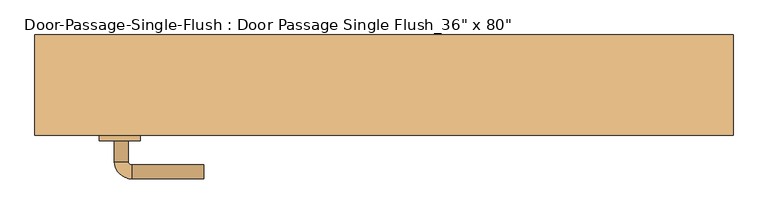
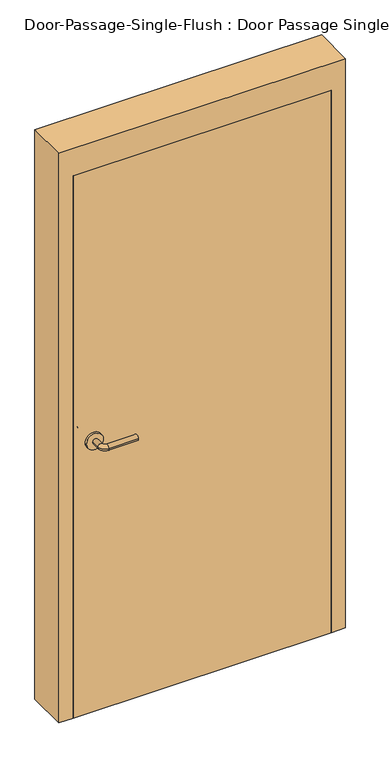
"""IFC4 building model written with IfcOpenShell, lengths in millimetres: door geometry."""

import ifcopenshell
import ifcopenshell.guid

model = None  # the IFC model being written
_history = None  # IfcOwnerHistory: only IFC2X3 demands one
_inside = {}  # id of a spatial element -> (the spatial element, [elements in it])
_under = {}  # id of a project, library or spatial element -> (it, [spatial elements below it])
_declared = {}  # id of a project -> (the project, [libraries it declares])
_typed = {}  # id of a type object -> (the type object, [elements of that type])
_made_of = {}  # id of a material, layer set ... -> (it, [elements and type objects made of it])


def new_model(schema):
    """Start an empty IFC model of exactly this schema.

    Asked for "IFC4X3", IfcOpenShell would pick the latest addendum, in which some entities
    have other attributes; the version numbers below select the first issue.
    IFC2X3 requires an IfcOwnerHistory on every rooted entity: one is made here for all.
    """
    global model, _history
    if schema == "IFC4X3":
        model = ifcopenshell.file(schema_version=(4, 3, 0, 0))
    else:
        model = ifcopenshell.file(schema=schema)
    _inside.clear()
    _under.clear()
    _declared.clear()
    _typed.clear()
    _made_of.clear()
    _history = None
    if model.schema == "IFC2X3":
        org = make("IfcOrganization", Name="unknown")
        user = make(
            "IfcPersonAndOrganization",
            ThePerson=make("IfcPerson", FamilyName="unknown"),
            TheOrganization=org,
        )
        app = make(
            "IfcApplication",
            ApplicationDeveloper=org,
            Version="unknown",
            ApplicationFullName="unknown",
            ApplicationIdentifier="unknown",
        )
        _history = make(
            "IfcOwnerHistory",
            OwningUser=user,
            OwningApplication=app,
            ChangeAction="ADDED",
            CreationDate=0,
        )
    return model


def make(cls, **values):
    """One entity of the class cls with the attributes given. An attribute that is None is left unset."""
    return model.create_entity(
        cls, **{name: value for name, value in values.items() if value is not None}
    )


def rooted(cls, **values):
    """An entity with a GlobalId (a new one), such as an element, a storey or a relation."""
    return make(cls, GlobalId=ifcopenshell.guid.new(), OwnerHistory=_history, **values)


def si_unit(unit_type, name, prefix=None):
    """IfcSIUnit, for example si_unit("LENGTHUNIT", "METRE", prefix="MILLI")."""
    return make("IfcSIUnit", UnitType=unit_type, Prefix=prefix, Name=name)


def assignment(units):
    """IfcUnitAssignment: the units of a project."""
    return None if units is None else make("IfcUnitAssignment", Units=units)


def point(xyz):
    """IfcCartesianPoint."""
    return None if xyz is None else make("IfcCartesianPoint", Coordinates=xyz)


def direction(xyz):
    """IfcDirection."""
    return None if xyz is None else make("IfcDirection", DirectionRatios=xyz)


def frame(location, z_axis=None, x_axis=None):
    """IfcAxis2Placement3D, a coordinate frame: its origin and axes. An axis left out is left unset."""
    return make(
        "IfcAxis2Placement3D",
        Location=point(location),
        Axis=direction(z_axis),
        RefDirection=direction(x_axis),
    )


def frame_2d(location, x_axis=None):
    """IfcAxis2Placement2D, a coordinate frame in the plane: its origin and x axis."""
    return make(
        "IfcAxis2Placement2D", Location=point(location), RefDirection=direction(x_axis)
    )


def origin():
    """The frame at (0, 0, 0) with its axes left unset."""
    return frame((0.0, 0.0, 0.0))


def origin_with_axes():
    """The frame at (0, 0, 0) with the z axis (0, 0, 1) and the x axis (1, 0, 0) written out."""
    return frame((0.0, 0.0, 0.0), z_axis=(0.0, 0.0, 1.0), x_axis=(1.0, 0.0, 0.0))


def place(relative_to, where):
    """IfcLocalPlacement: puts the frame where relative to a parent placement (None: the world)."""
    return make(
        "IfcLocalPlacement", PlacementRelTo=relative_to, RelativePlacement=where
    )


def context(
    kind, dimensions, precision=None, world=None, true_north=None, identifier=None
):
    """IfcGeometricRepresentationContext, for example the 3D "Model" context."""
    return make(
        "IfcGeometricRepresentationContext",
        ContextIdentifier=identifier,
        ContextType=kind,
        CoordinateSpaceDimension=dimensions,
        Precision=precision,
        WorldCoordinateSystem=world,
        TrueNorth=true_north,
    )


def project(units=None, contexts=None):
    """IfcProject with its units and contexts."""
    return rooted(
        "IfcProject",
        Name="project",
        RepresentationContexts=contexts,
        UnitsInContext=assignment(units),
    )


def spatial(cls, under=None, at=None, **own):
    """A site, building, storey or space (cls), placed at a placement, below another one or the project."""
    s = rooted(cls, ObjectPlacement=at, **own)
    if under is not None:
        _under.setdefault(under.id(), (under, []))[1].append(s)
    return s


def polyline(points):
    """IfcPolyline through the points."""
    return make("IfcPolyline", Points=[point(p) for p in points])


def circle_curve(where, radius):
    """IfcCircle in the frame where."""
    return make("IfcCircle", Position=where, Radius=radius)


def ellipse_curve(where, semi_axis1, semi_axis2):
    """IfcEllipse in the frame where."""
    return make(
        "IfcEllipse", Position=where, SemiAxis1=semi_axis1, SemiAxis2=semi_axis2
    )


def trimmed(basis, trim1, trim2, sense, master):
    """IfcTrimmedCurve: the piece of a basis curve between two trims."""
    return make(
        "IfcTrimmedCurve",
        BasisCurve=basis,
        Trim1=trim1,
        Trim2=trim2,
        SenseAgreement=sense,
        MasterRepresentation=master,
    )


def segment(curve, same_sense, transition):
    """IfcCompositeCurveSegment."""
    return make(
        "IfcCompositeCurveSegment",
        Transition=transition,
        SameSense=same_sense,
        ParentCurve=curve,
    )


def composite_curve(segments, self_intersect=None):
    """IfcCompositeCurve: segments joined end to end."""
    return make("IfcCompositeCurve", Segments=segments, SelfIntersect=self_intersect)


def outline(outer, holes=None, kind="AREA"):
    """IfcArbitraryClosedProfileDef: a profile drawn as a closed curve; with holes, ...WithVoids."""
    if holes is None:
        return make("IfcArbitraryClosedProfileDef", ProfileType=kind, OuterCurve=outer)
    return make(
        "IfcArbitraryProfileDefWithVoids",
        ProfileType=kind,
        OuterCurve=outer,
        InnerCurves=holes,
    )


def extrude(swept, where, along, depth):
    """IfcExtrudedAreaSolid: the profile swept, set in the frame where, extruded along a direction by depth."""
    return make(
        "IfcExtrudedAreaSolid",
        SweptArea=swept,
        Position=where,
        ExtrudedDirection=direction(along),
        Depth=depth,
    )


def faces_of(points, faces, orient=None, outer=None):
    """IfcFace entities. A face is a list of loops; a loop is a list of indices into points, from 0.

    orient and outer hold one flag for each loop. By default every Orientation is true, the
    first loop of a face is its IfcFaceOuterBound and the others are IfcFaceBound.
    """
    made = []
    for i, loops in enumerate(faces):
        bounds = []
        for j, loop in enumerate(loops):
            is_outer = j == 0 if outer is None else outer[i][j]
            bounds.append(
                make(
                    "IfcFaceOuterBound" if is_outer else "IfcFaceBound",
                    Bound=make("IfcPolyLoop", Polygon=[points[k] for k in loop]),
                    Orientation=True if orient is None else orient[i][j],
                )
            )
        made.append(make("IfcFace", Bounds=bounds))
    return made


def faceted_brep(points, faces, orient=None, outer=None, voids=None):
    """IfcFacetedBrep: a solid bounded by flat faces; with voids (closed shells), ...WithVoids."""
    shared = [point(p) for p in points]
    hull = make("IfcClosedShell", CfsFaces=faces_of(shared, faces, orient, outer))
    if voids is None:
        return make("IfcFacetedBrep", Outer=hull)
    return make(
        "IfcFacetedBrepWithVoids",
        Outer=hull,
        Voids=[
            make(cls, CfsFaces=faces_of(shared, fs, o, b)) for cls, fs, o, b in voids
        ],
    )


def shape(context_of_items, identifier, shape_type, items):
    """IfcShapeRepresentation: the items that make up one representation, for example the "Body"."""
    return make(
        "IfcShapeRepresentation",
        ContextOfItems=context_of_items,
        RepresentationIdentifier=identifier,
        RepresentationType=shape_type,
        Items=items,
    )


def source(mapping_origin, context_of_items, identifier, shape_type, items):
    """IfcRepresentationMap: a shape defined once, which mapped items show again and again."""
    return make(
        "IfcRepresentationMap",
        MappingOrigin=mapping_origin,
        MappedRepresentation=shape(context_of_items, identifier, shape_type, items),
    )


def transform(
    local_origin,
    x_axis=None,
    y_axis=None,
    z_axis=None,
    scale=None,
    scale2=None,
    scale3=None,
    uniform=True,
):
    """IfcCartesianTransformationOperator3D, or its non-uniform kind. x_axis, y_axis, z_axis: its Axis1, 2, 3."""
    if uniform:
        return make(
            "IfcCartesianTransformationOperator3D",
            Axis1=direction(x_axis),
            Axis2=direction(y_axis),
            LocalOrigin=point(local_origin),
            Scale=scale,
            Axis3=direction(z_axis),
        )
    return make(
        "IfcCartesianTransformationOperator3DnonUniform",
        Axis1=direction(x_axis),
        Axis2=direction(y_axis),
        LocalOrigin=point(local_origin),
        Scale=scale,
        Axis3=direction(z_axis),
        Scale2=scale2,
        Scale3=scale3,
    )


def mapped(mapping_source, mapping_target):
    """IfcMappedItem: shows the shape of a source again, moved by a transform."""
    return make(
        "IfcMappedItem", MappingSource=mapping_source, MappingTarget=mapping_target
    )


def made_of(thing, what):
    """Note that an element or type object is made of a material, layer set ...; save() writes the relation."""
    if what is not None:
        _made_of.setdefault(what.id(), (what, []))[1].append(thing)
    return thing


def element(
    cls,
    number,
    at=None,
    inside=None,
    cuts=None,
    type_object=None,
    material=None,
    context=None,
    identifier="Body",
    shape_type=None,
    held_by="IfcProductDefinitionShape",
    body=None,
    shapes=None,
    **own,
):
    """One element of the class cls, such as IfcWall. Its Tag is "e" and its number.

    at: its placement. inside: the storey or other place that contains it. cuts: it is an
    opening in that element (IfcRelVoidsElement). A single representation is given by context,
    identifier, shape_type and body (its items); several are given by shapes. held_by: the class
    of the entity that holds the representations. save() writes the other relations.
    """
    e = rooted(cls, Tag="e%d" % number, ObjectPlacement=at, **own)
    if body is not None:
        shapes = [shape(context, identifier, shape_type, body)]
    if shapes is not None:
        e.Representation = make(held_by, Representations=shapes)
    if inside is not None:
        _inside.setdefault(inside.id(), (inside, []))[1].append(e)
    if cuts is not None:
        rooted(
            "IfcRelVoidsElement", RelatingBuildingElement=cuts, RelatedOpeningElement=e
        )
    if type_object is not None:
        _typed.setdefault(type_object.id(), (type_object, []))[1].append(e)
    return made_of(e, material)


def aggregate(whole, parts):
    """IfcRelAggregates: a whole, such as a stair, and the parts it consists of."""
    return rooted("IfcRelAggregates", RelatingObject=whole, RelatedObjects=parts)


def save(model, path):
    """Write the relations noted so far, then the file.

    IfcRelAggregates (storeys below a building ...), IfcRelContainedInSpatialStructure (elements
    in a storey), IfcRelDefinesByType, IfcRelAssociatesMaterial and IfcRelDeclares: one each for
    every whole, place, type object, material and project.
    """
    for whole, parts in _under.values():
        aggregate(whole, parts)
    for where, things in _inside.values():
        rooted(
            "IfcRelContainedInSpatialStructure",
            RelatedElements=things,
            RelatingStructure=where,
        )
    for kind, things in _typed.values():
        rooted("IfcRelDefinesByType", RelatedObjects=things, RelatingType=kind)
    for what, things in _made_of.values():
        rooted("IfcRelAssociatesMaterial", RelatedObjects=things, RelatingMaterial=what)
    for by, libraries in _declared.values():
        rooted("IfcRelDeclares", RelatingContext=by, RelatedDefinitions=libraries)
    model.write(path)


def plane_surface(at):
    """IfcPlane: the flat surface through the origin of the frame at, square to its z axis."""
    return make("IfcPlane", Position=at)


def cylinder_surface(at, radius):
    """IfcCylindricalSurface: all points at the distance radius from the z axis of the frame at."""
    return make("IfcCylindricalSurface", Position=at, Radius=radius)


def revolved_surface(curve, axis_point, axis_direction):
    """IfcSurfaceOfRevolution: the curve turned about the line through axis_point along axis_direction."""
    return make(
        "IfcSurfaceOfRevolution",
        SweptCurve=make("IfcArbitraryOpenProfileDef", ProfileType="CURVE", Curve=curve),
        AxisPosition=make("IfcAxis1Placement", Location=point(axis_point), Axis=direction(axis_direction)),
    )


def advanced_brep(points, edges, surfaces, faces):
    """IfcAdvancedBrep: a solid bounded by faces that lie on surfaces and meet in shared edges.

    An edge is (start, end): straight between two places in points (the first is 0);
    or (start, end, curve); or (start, end, curve, False) where it runs against its curve.
    A face is (place in surfaces, loops), or (place, loops, False) where it looks against
    its surface's normal. A loop lists edges by number (the first is 1), with a minus sign
    where the edge is run from its end to its start. The first loop is the outer one.
    """
    corners = [point(p) for p in points]
    vertices = [make("IfcVertexPoint", VertexGeometry=c) for c in corners]
    made = []
    for start, end, *more in edges:
        made.append(
            make(
                "IfcEdgeCurve",
                EdgeStart=vertices[start],
                EdgeEnd=vertices[end],
                EdgeGeometry=more[0] if more else make("IfcPolyline", Points=[corners[start], corners[end]]),
                SameSense=more[1] if len(more) > 1 else True,
            )
        )
    hull = []
    for where, loops, *sense in faces:
        bounds = []
        for j, loop in enumerate(loops):
            ring = [make("IfcOrientedEdge", EdgeElement=made[abs(k) - 1], Orientation=k > 0) for k in loop]
            bounds.append(
                make(
                    "IfcFaceOuterBound" if j == 0 else "IfcFaceBound",
                    Bound=make("IfcEdgeLoop", EdgeList=ring),
                    Orientation=True,
                )
            )
        hull.append(make("IfcAdvancedFace", Bounds=bounds, FaceSurface=surfaces[where], SameSense=sense[0] if sense else True))
    return make("IfcAdvancedBrep", Outer=make("IfcClosedShell", CfsFaces=hull))


def door_1f8fe3fe(model_context):
    return source(origin(), model_context, "Body", "SolidModel", [
        advanced_brep(
        [(-392.190625, -20.575, 1016.0), (-372.190625, -20.575, 1016.0), (-392.190625, 9.425, 1016.0), (-372.190625, 9.425, 1016.0), (-367.190625, 14.425, 1016.0), (-367.190625, 34.425, 1016.0), (-262.190625, 34.425, 1016.0), (-262.190625, 14.425, 1016.0)],
        [
            (0, 1, circle_curve(frame((-382.190625, -20.575, 1016.0), z_axis=(0.0, -1.0, 0.0), x_axis=(1.0, 0.0, 0.0)), 10.0)),
            (1, 0, circle_curve(frame((-382.190625, -20.575, 1016.0), z_axis=(0.0, -1.0, 0.0), x_axis=(1.0, 0.0, 0.0)), 10.0)),
            (0, 2),
            (2, 3, circle_curve(frame((-382.190625, 9.425, 1016.0), z_axis=(0.0, -1.0, 0.0), x_axis=(1.0, 0.0, 0.0)), 10.0)),
            (3, 1),
            (3, 2, circle_curve(frame((-382.190625, 9.425, 1016.0), z_axis=(0.0, -1.0, 0.0), x_axis=(1.0, 0.0, 0.0)), 10.0)),
            (4, 3, circle_curve(frame((-367.190625, 9.425, 1016.0), z_axis=(0.0, 0.0, 1.0), x_axis=(-1.0, 0.0, 0.0)), 5.0)),
            (2, 5, circle_curve(frame((-367.190625, 9.425, 1016.0), z_axis=(0.0, 0.0, -1.0), x_axis=(-1.0, 0.0, 0.0)), 25.0)),
            (5, 4, circle_curve(frame((-367.190625, 24.425, 1016.0), z_axis=(-1.0, 0.0, 0.0), x_axis=(0.0, -1.0, 0.0)), 10.0)),
            (4, 5, circle_curve(frame((-367.190625, 24.425, 1016.0), z_axis=(-1.0, 0.0, 0.0), x_axis=(0.0, -1.0, 0.0)), 10.0)),
            (6, 7, circle_curve(frame((-262.190625, 24.425, 1016.0), z_axis=(1.0, 0.0, 0.0), x_axis=(0.0, -1.0, 0.0)), 10.0)),
            (7, 6, circle_curve(frame((-262.190625, 24.425, 1016.0), z_axis=(1.0, 0.0, 0.0), x_axis=(0.0, -1.0, 0.0)), 10.0)),
            (5, 6),
            (7, 4),
        ],
        [
            plane_surface(frame((-382.190625, -20.575, 1016.0), z_axis=(0.0, -1.0, 0.0), x_axis=(0.0, 0.0, 1.0))),
            cylinder_surface(frame((-382.190625, -20.575, 1016.0), z_axis=(0.0, -1.0, 0.0), x_axis=(1.0, 0.0, 0.0)), 10.0),
            revolved_surface(trimmed(ellipse_curve(frame((-382.190625, 9.425, 1016.0), z_axis=(0.0, -1.0, 0.0), x_axis=(1.0, 0.0, 0.0)), 10.0, 10.0), [point((-392.190625, 9.425, 1016.0))], [point((-372.190625, 9.425, 1016.0))], True, "CARTESIAN"), (-367.190625, 9.425, 1016.0), (0.0, 0.0, -1.0)),
            revolved_surface(trimmed(ellipse_curve(frame((-382.190625, 9.425, 1016.0), z_axis=(0.0, -1.0, 0.0), x_axis=(1.0, 0.0, 0.0)), 10.0, 10.0), [point((-372.190625, 9.425, 1016.0))], [point((-392.190625, 9.425, 1016.0))], True, "CARTESIAN"), (-367.190625, 9.425, 1016.0), (0.0, 0.0, -1.0)),
            plane_surface(frame((-262.190625, 24.425, 1016.0), z_axis=(1.0, 0.0, 0.0), x_axis=(0.0, 0.0, 1.0))),
            cylinder_surface(frame((-367.190625, 24.425, 1016.0), z_axis=(-1.0, 0.0, 0.0), x_axis=(0.0, -1.0, 0.0)), 10.0),
        ],
        [
            (0, [[1, 2]]),
            (1, [[-1, 3, 4, 5]]),
            (1, [[-2, -5, 6, -3]]),
            (2, [[7, -4, 8, 9]]),
            (3, [[-8, -6, -7, 10]]),
            (4, [[11, 12]]),
            (5, [[-9, 13, -12, 14]]),
            (5, [[-10, -14, -11, -13]]),
        ],
    ),
        extrude(outline(composite_curve([segment(trimmed(circle_curve(frame_2d((1016.0, -384.690625)), 30.0), [point((1016.0, -414.690625))], [point((1016.0, -354.690625))], False, "CARTESIAN"), True, "CONTINUOUS"), segment(trimmed(circle_curve(frame_2d((1016.0, -384.690625)), 30.0), [point((1016.0, -354.690625))], [point((1016.0, -414.690625))], False, "CARTESIAN"), True, "CONTINUOUS")], self_intersect=False)), frame((0.0, -28.575, 0.0), z_axis=(0.0, 1.0, 0.0), x_axis=(0.0, 0.0, 1.0)), (0.0, 0.0, 1.0), 8.0),
        advanced_brep(
        [(-392.190625, -81.025, 1016.0), (-372.190625, -81.025, 1016.0), (-372.190625, -111.025, 1016.0), (-392.190625, -111.025, 1016.0), (-367.190625, -116.025, 1016.0), (-367.190625, -136.025, 1016.0), (-262.190625, -136.025, 1016.0), (-262.190625, -116.025, 1016.0)],
        [
            (0, 1, circle_curve(frame((-382.190625, -81.025, 1016.0), z_axis=(0.0, 1.0, 0.0), x_axis=(1.0, 0.0, 0.0)), 10.0)),
            (1, 0, circle_curve(frame((-382.190625, -81.025, 1016.0), z_axis=(0.0, 1.0, 0.0), x_axis=(1.0, 0.0, 0.0)), 10.0)),
            (1, 2),
            (2, 3, circle_curve(frame((-382.190625, -111.025, 1016.0), z_axis=(0.0, 1.0, 0.0), x_axis=(1.0, 0.0, 0.0)), 10.0)),
            (3, 0),
            (3, 2, circle_curve(frame((-382.190625, -111.025, 1016.0), z_axis=(0.0, 1.0, 0.0), x_axis=(1.0, 0.0, 0.0)), 10.0)),
            (4, 5, circle_curve(frame((-367.190625, -126.025, 1016.0), z_axis=(-1.0, 0.0, 0.0), x_axis=(0.0, 1.0, 0.0)), 10.0)),
            (5, 3, circle_curve(frame((-367.190625, -111.025, 1016.0), z_axis=(0.0, 0.0, -1.0), x_axis=(-1.0, 0.0, 0.0)), 25.0)),
            (2, 4, circle_curve(frame((-367.190625, -111.025, 1016.0), z_axis=(0.0, 0.0, 1.0), x_axis=(-1.0, 0.0, 0.0)), 5.0)),
            (5, 4, circle_curve(frame((-367.190625, -126.025, 1016.0), z_axis=(-1.0, 0.0, 0.0), x_axis=(0.0, 1.0, 0.0)), 10.0)),
            (6, 7, circle_curve(frame((-262.190625, -126.025, 1016.0), z_axis=(1.0, 0.0, 0.0), x_axis=(0.0, 1.0, 0.0)), 10.0)),
            (7, 6, circle_curve(frame((-262.190625, -126.025, 1016.0), z_axis=(1.0, 0.0, 0.0), x_axis=(0.0, 1.0, 0.0)), 10.0)),
            (4, 7),
            (6, 5),
        ],
        [
            plane_surface(frame((-382.190625, -81.025, 1016.0), z_axis=(0.0, 1.0, 0.0), x_axis=(0.0, 0.0, 1.0))),
            cylinder_surface(frame((-382.190625, -81.025, 1016.0), z_axis=(0.0, 1.0, 0.0), x_axis=(1.0, 0.0, 0.0)), 10.0),
            revolved_surface(trimmed(ellipse_curve(frame((-382.190625, -111.025, 1016.0), z_axis=(0.0, -1.0, 0.0), x_axis=(1.0, 0.0, 0.0)), 10.0, 10.0), [point((-392.190625, -111.025, 1016.0))], [point((-372.190625, -111.025, 1016.0))], True, "CARTESIAN"), (-367.190625, -111.025, 1016.0), (0.0, 0.0, -1.0)),
            revolved_surface(trimmed(ellipse_curve(frame((-382.190625, -111.025, 1016.0), z_axis=(0.0, -1.0, 0.0), x_axis=(1.0, 0.0, 0.0)), 10.0, 10.0), [point((-372.190625, -111.025, 1016.0))], [point((-392.190625, -111.025, 1016.0))], True, "CARTESIAN"), (-367.190625, -111.025, 1016.0), (0.0, 0.0, -1.0)),
            plane_surface(frame((-262.190625, -126.025, 1016.0), z_axis=(1.0, 0.0, 0.0), x_axis=(0.0, 0.0, 1.0))),
            cylinder_surface(frame((-367.190625, -126.025, 1016.0), z_axis=(-1.0, 0.0, 0.0), x_axis=(0.0, 1.0, 0.0)), 10.0),
        ],
        [
            (0, [[1, 2]]),
            (1, [[3, 4, 5, -2]]),
            (1, [[-5, 6, -3, -1]]),
            (2, [[7, 8, -4, 9]]),
            (3, [[10, -9, -6, -8]]),
            (4, [[11, 12]]),
            (5, [[13, -11, 14, -7]]),
            (5, [[-14, -12, -13, -10]]),
        ],
    ),
        extrude(outline(composite_curve([segment(trimmed(circle_curve(frame_2d((1016.0, -384.690625)), 30.0), [point((1016.0, -414.690625))], [point((1016.0, -354.690625))], False, "CARTESIAN"), True, "CONTINUOUS"), segment(trimmed(circle_curve(frame_2d((1016.0, -384.690625)), 30.0), [point((1016.0, -354.690625))], [point((1016.0, -414.690625))], False, "CARTESIAN"), True, "CONTINUOUS")], self_intersect=False)), frame((0.0, -81.025, 0.0), z_axis=(0.0, 1.0, 0.0), x_axis=(0.0, 0.0, 1.0)), (0.0, 0.0, 1.0), 8.0),
        faceted_brep([(457.2, -23.8125, 0.0), (441.325, -23.8125, 0.0), (441.325, 23.8125, 0.0), (457.2, 23.8125, 0.0), (457.2, 73.025, 0.0), (508.0, 73.025, 0.0), (508.0, -73.025, 0.0), (457.2, -73.025, 0.0), (457.2, -73.025, 2032.0), (457.2, -23.8125, 2032.0), (508.0, -73.025, 2133.6), (-508.0, -73.025, 2133.6), (-508.0, -73.025, 0.0), (-457.2, -73.025, 0.0), (-457.2, -73.025, 2032.0), (508.0, 73.025, 2133.6), (457.2, 73.025, 2032.0), (-457.2, 73.025, 2032.0), (-457.2, 73.025, 0.0), (-508.0, 73.025, 0.0), (-508.0, 73.025, 2133.6), (457.2, 23.8125, 2032.0), (441.325, 23.8125, 2016.125), (-441.325, 23.8125, 2016.125), (-441.325, 23.8125, 0.0), (-457.2, 23.8125, 0.0), (-457.2, 23.8125, 2032.0), (441.325, -23.8125, 2016.125), (-457.2, -23.8125, 2032.0), (-457.2, -23.8125, 0.0), (-441.325, -23.8125, 0.0), (-441.325, -23.8125, 2016.125)], [[[0, 1, 2, 3, 4, 5, 6, 7]], [[7, 8, 9, 0]], [[6, 10, 11, 12, 13, 14, 8, 7]], [[5, 15, 10, 6]], [[4, 16, 17, 18, 19, 20, 15, 5]], [[3, 21, 16, 4]], [[2, 22, 23, 24, 25, 26, 21, 3]], [[1, 27, 22, 2]], [[0, 9, 28, 29, 30, 31, 27, 1]], [[8, 14, 28, 9]], [[16, 21, 26, 17]], [[22, 27, 31, 23]], [[12, 19, 18, 25, 24, 30, 29, 13]], [[13, 29, 28, 14]], [[11, 20, 19, 12]], [[17, 26, 25, 18]], [[23, 31, 30, 24]], [[15, 20, 11, 10]]]),
        extrude(outline(polyline([(457.2, -28.575), (457.2, -73.025), (-457.2, -73.025), (-457.2, -28.575), (457.2, -28.575)])), origin_with_axes(), (0.0, 0.0, 1.0), 2032.0),
    ])


if __name__ == "__main__":
    model = new_model("IFC4")
    model_context = context("Model", 3, world=origin())
    ifc_project = project(units=[si_unit("LENGTHUNIT", "METRE", prefix="MILLI")], contexts=[model_context])
    site = spatial("IfcSite", under=ifc_project)
    building = spatial("IfcBuilding", under=site)
    placement = place(None, origin())
    door_shape = door_1f8fe3fe(model_context)
    element("IfcDoor", 1, ObjectType="Door-Passage-Single-Flush : Door Passage Single Flush_36\" x 80\"", at=placement, inside=building, context=model_context, shape_type="MappedRepresentation", body=[
        mapped(door_shape, transform((0.0, 0.0, 0.0), x_axis=(1.0, 0.0, 0.0), y_axis=(0.0, 1.0, 0.0), z_axis=(0.0, 0.0, 1.0))),
    ])
    save(model, "model.ifc")
